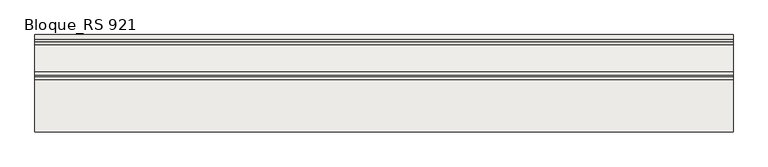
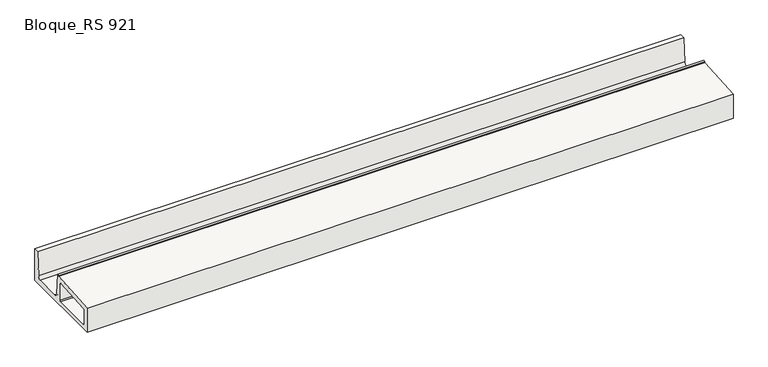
"""IFC4 building model written with IfcOpenShell, lengths in millimetres: slab geometry, ROSA GRES_RS 921 : Bloque_RS 921."""

from ifc_helpers import new_model, si_unit, point, frame, frame_2d, origin, place, context, project, spatial, polyline, circle_curve, trimmed, segment, composite_curve, outline, extrude, source, transform, mapped, element, save


def bloque_rs_921_204e44f3(model_context):
    return source(origin(), model_context, "Body", "SweptSolid", [
        extrude(outline(composite_curve([segment(polyline([(572.95, 220.7738447), (572.95, 15.0), (14.0, 15.0), (14.0, 171.045529), (316.0814672, 195.6335554), (315.739238, 199.838085), (329.4801557, 200.9565318), (339.6622462, 68.4547526)]), True, "CONTINUOUS"), segment(trimmed(circle_curve(frame_2d((359.6024621, 70.0)), 20.0), [point((339.6622462, 68.4547526))], [point((359.6024621, 50.0))], True, "CARTESIAN"), True, "CONTINUOUS"), segment(polyline([(359.6024621, 50.0), (513.2975379, 50.0)]), True, "CONTINUOUS"), segment(trimmed(circle_curve(frame_2d((513.2975379, 70.0)), 20.0), [point((513.2975379, 50.0))], [point((533.2377538, 68.4547526))], True, "CARTESIAN"), True, "CONTINUOUS"), segment(polyline([(533.2377538, 68.4547526), (544.8644176, 218.487809), (572.95, 220.7738447)]), True, "CONTINUOUS")], self_intersect=False), holes=[composite_curve([segment(trimmed(circle_curve(frame_2d((294.4200858, 153.7241904)), 8.0), [point((302.4200858, 153.7241904))], [point((293.7710693, 161.6978206))], True, "CARTESIAN"), True, "CONTINUOUS"), segment(polyline([(293.7710693, 161.6978206), (55.7710693, 142.3257276)]), True, "CONTINUOUS"), segment(trimmed(circle_curve(frame_2d((56.4200858, 134.3520974)), 8.0), [point((55.7710693, 142.3257276))], [point((48.4200858, 134.3520974))], True, "CARTESIAN"), True, "CONTINUOUS"), segment(polyline([(48.4200858, 134.3520974), (48.4200858, 50.0)]), True, "CONTINUOUS"), segment(trimmed(circle_curve(frame_2d((56.4200858, 50.0)), 8.0), [point((48.4200858, 50.0))], [point((56.4200858, 42.0))], True, "CARTESIAN"), True, "CONTINUOUS"), segment(polyline([(56.4200858, 42.0), (294.4200858, 42.0)]), True, "CONTINUOUS"), segment(trimmed(circle_curve(frame_2d((294.4200858, 50.0)), 8.0), [point((294.4200858, 42.0))], [point((302.4200858, 50.0))], True, "CARTESIAN"), True, "CONTINUOUS"), segment(polyline([(302.4200858, 50.0), (302.4200858, 153.7241904)]), True, "CONTINUOUS")], self_intersect=False)]), frame((0.0, 0.0, 0.0), z_axis=(1.0, 0.0, 0.0), x_axis=(0.0, 1.0, 0.0)), (0.0, 0.0, 1.0), 3999.75),
    ])


if __name__ == "__main__":
    model = new_model("IFC4")
    model_context = context("Model", 3, world=origin())
    ifc_project = project(units=[si_unit("LENGTHUNIT", "METRE", prefix="MILLI")], contexts=[model_context])
    site = spatial("IfcSite", under=ifc_project)
    building = spatial("IfcBuilding", under=site)
    placement = place(None, origin())
    bloque_rs_921_shape = bloque_rs_921_204e44f3(model_context)
    element("IfcSlab", 1, ObjectType="ROSA GRES_RS 921 : Bloque_RS 921", at=placement, inside=building, context=model_context, shape_type="MappedRepresentation", body=[
        mapped(bloque_rs_921_shape, transform((0.0, 0.0, 0.0), x_axis=(1.0, 0.0, 0.0), y_axis=(0.0, 1.0, 0.0), z_axis=(0.0, 0.0, 1.0))),
    ])
    save(model, "model.ifc")
